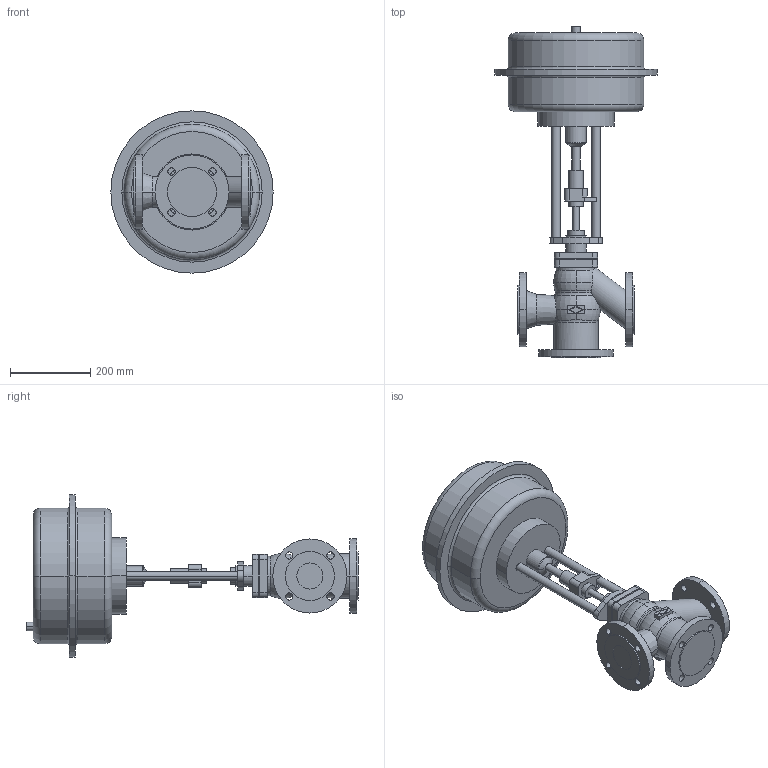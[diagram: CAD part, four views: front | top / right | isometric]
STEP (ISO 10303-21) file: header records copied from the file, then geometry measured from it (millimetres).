
FILE_DESCRIPTION(('OneSpaceDesigner STEP Export'),'2;1');
FILE_NAME('c000000690.stp','2006-09-19T10:17:40',(''),(''),'OneSpace Designer STEP processor for AP214 (Solid Model)','OneSpace Designer 13.20A 18-Aug-2005 (C) CoCreate Software GmbH','');
FILE_SCHEMA(('AUTOMOTIVE_DESIGN { 1 0 10303 214 1 1 1 1 }'));
Length unit declared in the file: millimetre
Products named in the file (2): 1; 2
Bounding box: 405 x 828.5 x 405 mm (x, y, z)
Volume: 24403176.3 mm3; surface area: 885441.9 mm2
Topology: 2 solids, 2 shells, 204 faces, 501 edges, 329 vertices
Faces by surface type: cylinder 94, plane 76, torus 28, cone 6
Entity records: 5469 total; most frequent: CARTESIAN_POINT 1056, ORIENTED_EDGE 1002, DIRECTION 794, EDGE_CURVE 501, VERTEX_POINT 329, AXIS2_PLACEMENT_3D 291, EDGE_LOOP 256, VECTOR 212
